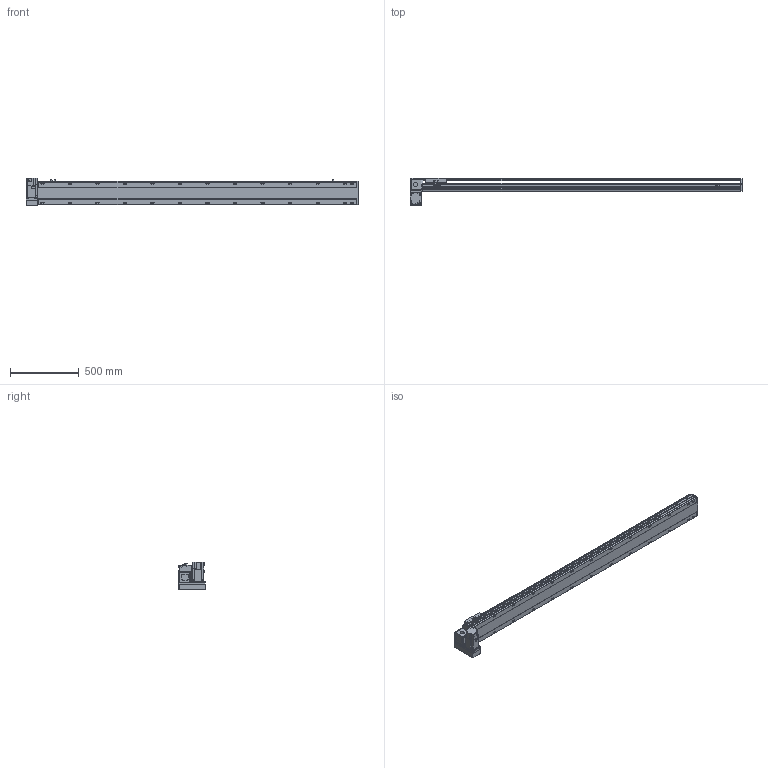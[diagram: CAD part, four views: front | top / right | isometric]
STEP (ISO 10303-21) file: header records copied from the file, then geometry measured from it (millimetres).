
FILE_DESCRIPTION(/* description */ ('STEP AP214'),/* implementation_level */ '2;1');
FILE_NAME(/* name */ 'PBS170-P40-S2050-LD-T75-C1-N(0)',/* time_stamp */ '2022-06-07T09:54:52+02:00',/* author */ ('License CC BY-ND 4.0'),/* organization */ ('CADENAS'),/* preprocessor_version */ 'ST-DEVELOPER v18.102',/* originating_system */ 'PARTsolutions',/* authorisation */ ' ');
FILE_SCHEMA (('AUTOMOTIVE_DESIGN {1 0 10303 214 3 1 1}'));
Length unit declared in the file: millimetre
Products named in the file (7): PBS170-P40-S2050-LD-T75-C1-N(0); PBS170_sensor; PBS170_plant; PBS170_sliser; T75-p1; PBS170T-LD_motors; PBS170-S2050()_body
Assembly tree (8 placements, depth 2):
  PBS170-P40-S2050-LD-T75-C1-N(0)
    PBS170_sensor  x3
    PBS170_plant
    PBS170_sliser
    T75-p1
    PBS170T-LD_motors
    PBS170-S2050()_body
Bounding box: 2413 x 201 x 197.3 mm (x, y, z)
Volume: 18469246.3 mm3; surface area: 2343893.3 mm2
Topology: 8 solids, 8 shells, 1162 faces, 3075 edges, 2004 vertices
Faces by surface type: plane 717, cylinder 379, cone 56, sphere 8, torus 2
Full cylindrical faces by diameter (mm): 3.242 x4, 4 x2, 4.4 x4, 4.5 x6, 4.917 x4, 6 x9, 6.647 x34, 7 x2, 7.5 x4, 8 x8, 8.5 x26, 10 x4, 10.5 x26, 11 x2, 30 x2, 40 x1, 70 x1
Entity records: 33408 total; most frequent: CARTESIAN_POINT 6273, DIRECTION 5650, ORIENTED_EDGE 5328, EDGE_CURVE 2664, AXIS2_PLACEMENT_3D 1987, VERTEX_POINT 1850, LINE 1676, VECTOR 1676
